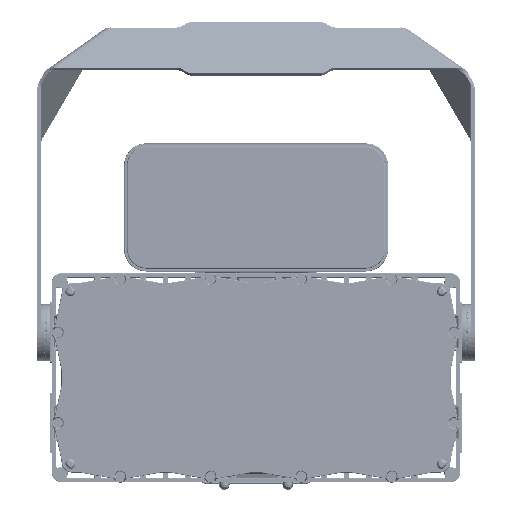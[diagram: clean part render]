
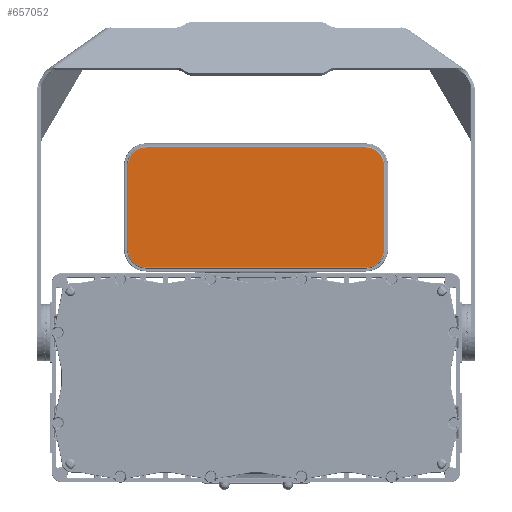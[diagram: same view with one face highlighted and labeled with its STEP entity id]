
A CAD part, front view. The second image highlights one B-rep face of the part: STEP entity #657052.
In plain terms, the highlighted planar face has unit normal (0, -1, 0).
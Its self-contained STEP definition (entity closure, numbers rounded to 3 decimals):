
#231691=DIRECTION('',(-1.,0.,0.));
#231692=VECTOR('',#231691,9.68);
#231693=CARTESIAN_POINT('',(4.84,-0.917,10.178));
#231694=LINE('',#231693,#231692);
#231695=CARTESIAN_POINT('',(4.84,-0.917,9.365));
#231696=DIRECTION('',(0.,-1.,0.));
#231697=DIRECTION('',(1.,0.,0.));
#231698=AXIS2_PLACEMENT_3D('',#231695,#231696,#231697);
#231700=DIRECTION('',(0.,0.,1.));
#231701=VECTOR('',#231700,3.68);
#231702=CARTESIAN_POINT('',(5.653,-0.917,5.685));
#231703=LINE('',#231702,#231701);
#231704=CARTESIAN_POINT('',(4.84,-0.917,5.685));
#231705=DIRECTION('',(0.,-1.,0.));
#231706=DIRECTION('',(0.,0.,-1.));
#231707=AXIS2_PLACEMENT_3D('',#231704,#231705,#231706);
#231709=DIRECTION('',(1.,0.,0.));
#231710=VECTOR('',#231709,9.68);
#231711=CARTESIAN_POINT('',(-4.84,-0.917,4.872));
#231712=LINE('',#231711,#231710);
#231713=CARTESIAN_POINT('',(-4.84,-0.917,5.685));
#231714=DIRECTION('',(0.,-1.,0.));
#231715=DIRECTION('',(-1.,0.,0.));
#231716=AXIS2_PLACEMENT_3D('',#231713,#231714,#231715);
#231718=DIRECTION('',(0.,0.,-1.));
#231719=VECTOR('',#231718,3.68);
#231720=CARTESIAN_POINT('',(-5.653,-0.917,9.365));
#231721=LINE('',#231720,#231719);
#231722=CARTESIAN_POINT('',(-4.84,-0.917,9.365));
#231723=DIRECTION('',(0.,-1.,0.));
#231724=DIRECTION('',(0.,0.,1.));
#231725=AXIS2_PLACEMENT_3D('',#231722,#231723,#231724);
#259471=CARTESIAN_POINT('',(4.84,-0.917,10.178));
#259472=CARTESIAN_POINT('',(-4.84,-0.917,10.178));
#259473=VERTEX_POINT('',#259471);
#259474=VERTEX_POINT('',#259472);
#259479=CARTESIAN_POINT('',(-5.653,-0.917,9.365));
#259480=VERTEX_POINT('',#259479);
#259483=CARTESIAN_POINT('',(-5.653,-0.917,5.685));
#259484=VERTEX_POINT('',#259483);
#259487=CARTESIAN_POINT('',(-4.84,-0.917,4.872));
#259488=VERTEX_POINT('',#259487);
#259491=CARTESIAN_POINT('',(4.84,-0.917,4.872));
#259492=VERTEX_POINT('',#259491);
#259495=CARTESIAN_POINT('',(5.653,-0.917,5.685));
#259496=VERTEX_POINT('',#259495);
#259499=CARTESIAN_POINT('',(5.653,-0.917,9.365));
#259500=VERTEX_POINT('',#259499);
#657030=CARTESIAN_POINT('',(0.,-0.917,7.525));
#657031=DIRECTION('',(0.,-1.,0.));
#657032=DIRECTION('',(-1.,0.,0.));
#657033=AXIS2_PLACEMENT_3D('',#657030,#657031,#657032);
#657034=PLANE('',#657033);
#657036=ORIENTED_EDGE('',*,*,#657035,.F.);
#657037=ORIENTED_EDGE('',*,*,#657020,.F.);
#657039=ORIENTED_EDGE('',*,*,#657038,.F.);
#657041=ORIENTED_EDGE('',*,*,#657040,.F.);
#657043=ORIENTED_EDGE('',*,*,#657042,.F.);
#657045=ORIENTED_EDGE('',*,*,#657044,.F.);
#657047=ORIENTED_EDGE('',*,*,#657046,.F.);
#657049=ORIENTED_EDGE('',*,*,#657048,.F.);
#657050=EDGE_LOOP('',(#657036,#657037,#657039,#657041,#657043,#657045,#657047,
#657049));
#657051=FACE_OUTER_BOUND('',#657050,.F.);
#657052=ADVANCED_FACE('',(#657051),#657034,.T.);
#231699=CIRCLE('',#231698,0.813);
#231708=CIRCLE('',#231707,0.813);
#231717=CIRCLE('',#231716,0.813);
#231726=CIRCLE('',#231725,0.813);
#657020=EDGE_CURVE('',#259500,#259473,#231699,.T.);
#657035=EDGE_CURVE('',#259473,#259474,#231694,.T.);
#657038=EDGE_CURVE('',#259496,#259500,#231703,.T.);
#657040=EDGE_CURVE('',#259492,#259496,#231708,.T.);
#657042=EDGE_CURVE('',#259488,#259492,#231712,.T.);
#657044=EDGE_CURVE('',#259484,#259488,#231717,.T.);
#657046=EDGE_CURVE('',#259480,#259484,#231721,.T.);
#657048=EDGE_CURVE('',#259474,#259480,#231726,.T.);
